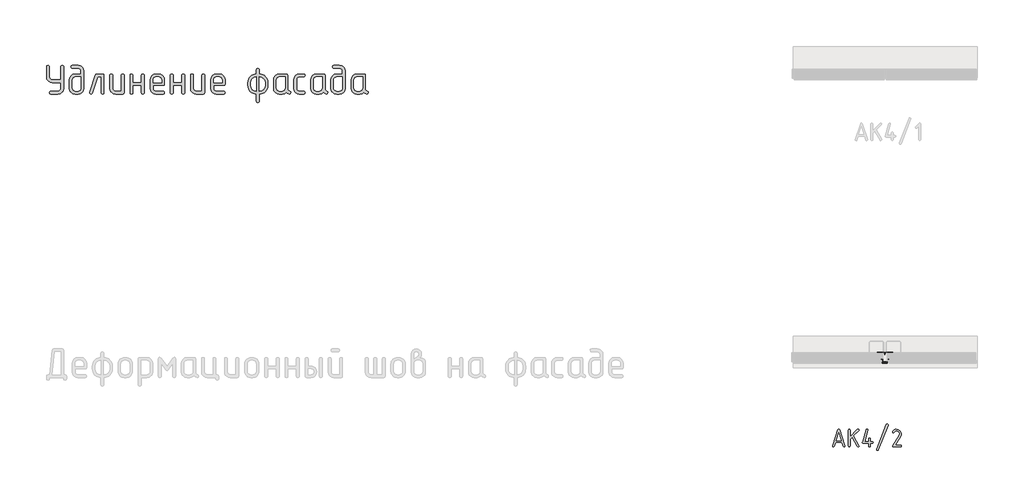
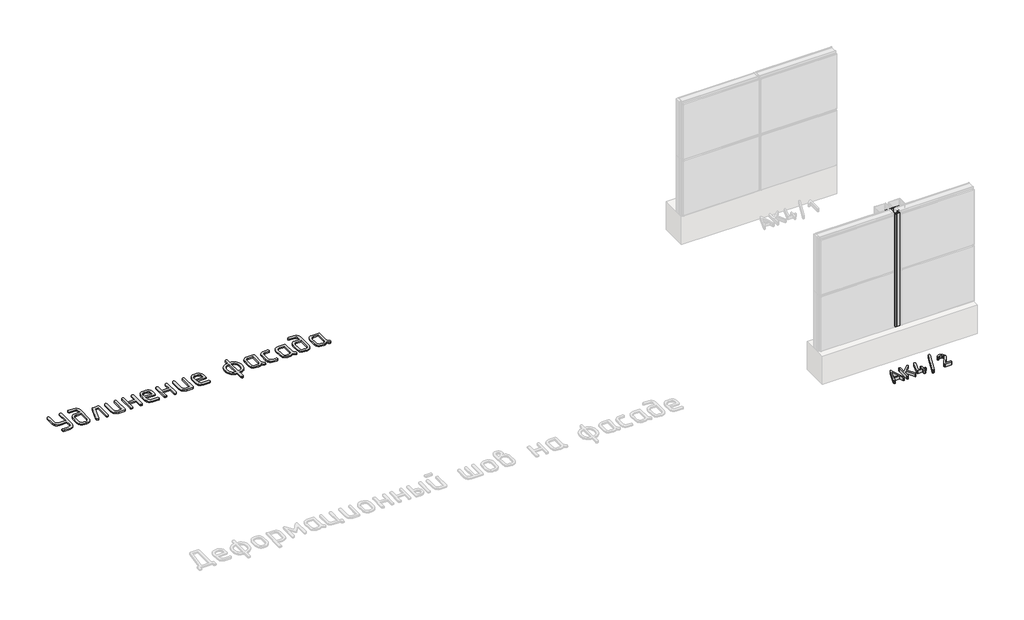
# One storey, part 12 of 37: 3 proxies.
"""IFC4 building model written with IfcOpenShell, lengths in millimetres."""

from ifc_helpers import new_model, si_unit, origin, origin_with_axes, place, context, project, spatial, polyline, outline, extrude, transform, mapped, element, save
from components import generic_models_5184f7a0

model = new_model("IFC4")

# Units and contexts
model_context = context("Model", 3, world=origin())
ifc_project = project(units=[si_unit("LENGTHUNIT", "METRE", prefix="MILLI")], contexts=[model_context])

# Site, building, storey
site = spatial("IfcSite", under=ifc_project)
building = spatial("IfcBuilding", under=site)
storey = spatial("IfcBuildingStorey", under=building, Name="Этаж 01", Elevation=0.0)

# Proxies
placement = place(None, origin())
element("IfcBuildingElementProxy", 1, Name="250 мм ГОСТ 2.304", ObjectType="250 мм ГОСТ 2.304", at=placement, inside=storey, context=model_context, shape_type="SweptSolid", body=[
    extrude(outline(polyline([(46420.8154984, -26426.1300608), (46402.9821438, -26480.0681368), (46398.7740979, -26486.3567408), (46391.2809603, -26488.4529422), (46382.5207159, -26485.1678505), (46378.5160328, -26476.8143318), (46379.6423499, -26472.0587706), (46454.3547197, -26247.9216611), (46459.2667139, -26239.9905113), (46465.9933301, -26237.3467947), (46473.0953853, -26239.9905113), (46477.6319404, -26247.9216611), (46552.7197493, -26472.0587706), (46553.4706274, -26476.8143318), (46549.4659443, -26485.1678505), (46540.7056999, -26488.4529422), (46535.2618338, -26487.7646372), (46529.0670895, -26480.0681368), (46511.1711617, -26426.1300608), (46420.8154984, -26426.1300608)]), holes=[polyline([(46502.7863564, -26400.9756448), (46465.9933301, -26290.9720048), (46429.2003037, -26400.9756448), (46502.7863564, -26400.9756448)])]), origin_with_axes(), (0.0, 0.0, 1.0), 50.0),
    extrude(outline(polyline([(46626.4935215, -26347.4130078), (46731.0532954, -26243.5415389), (46739.8135397, -26239.5368558), (46748.7615036, -26243.385106), (46752.5784672, -26252.3017833), (46748.5737841, -26261.0620276), (46674.6122924, -26335.0235194), (46750.7638452, -26470.2441485), (46752.5784672, -26476.8143318), (46748.5737841, -26485.7310091), (46739.4381007, -26489.2038202), (46733.3528595, -26487.4674147), (46728.8632343, -26482.2581979), (46656.0280597, -26352.1685691), (46626.4935215, -26381.3276682), (46626.4935215, -26476.4388927), (46623.0207104, -26485.7310091), (46614.1040331, -26488.8283812), (46605.1560692, -26485.5432896), (46601.3391055, -26476.4388927), (46601.3391055, -26252.3017833), (46605.1560692, -26243.1973865), (46614.1040331, -26239.9122948), (46622.6765579, -26243.1973865), (46626.4935215, -26252.3017833), (46626.4935215, -26347.4130078)])), origin_with_axes(), (0.0, 0.0, 1.0), 50.0),
    extrude(outline(polyline([(46913.8295368, -26414.1160114), (46938.6085137, -26414.1160114), (46947.90063, -26417.5888225), (46950.9980022, -26426.5054998), (46947.90063, -26435.2657442), (46938.6085137, -26438.8949883), (46913.8295368, -26438.8949883), (46913.8295368, -26476.4388927), (46910.3567256, -26485.7310091), (46901.4400483, -26488.8283812), (46892.6798039, -26485.5432896), (46889.0505598, -26476.4388927), (46889.0505598, -26438.8949883), (46814.33819, -26438.8949883), (46804.4829151, -26436.3451315), (46801.1978235, -26428.6955609), (46801.5732625, -26425.7859083), (46802.3241406, -26423.2516948), (46851.8820945, -26248.6725392), (46856.6063691, -26241.9146364), (46863.5207048, -26239.5368558), (46872.4686687, -26243.0096669), (46876.2856323, -26251.9263442), (46875.9101933, -26255.6181615), (46830.7323616, -26414.1160114), (46889.0505598, -26414.1160114), (46889.0505598, -26376.5721069), (46892.4920844, -26367.6554296), (46901.4400483, -26364.1826185), (46910.0125731, -26367.4677101), (46913.8295368, -26376.5721069), (46913.8295368, -26414.1160114)])), origin_with_axes(), (0.0, 0.0, 1.0), 50.0),
    extrude(outline(polyline([(47163.2462085, -26181.9695356), (47026.2109574, -26530.7524078), (47021.4866827, -26536.571713), (47014.947786, -26538.7617741), (47005.8121026, -26535.2889629), (47001.8074195, -26526.3722856), (47002.5582976, -26521.6167244), (47139.5935487, -26172.8964254), (47144.3178234, -26167.014547), (47150.8567201, -26164.824486), (47159.9924035, -26168.4850166), (47163.9970866, -26177.2139744), (47163.2462085, -26181.9695356)])), origin_with_axes(), (0.0, 0.0, 1.0), 50.0),
    extrude(outline(polyline([(47341.5797546, -26335.7743975), (47261.0480796, -26464.0494043), (47338.3259495, -26464.0494043), (47347.6180659, -26467.5222154), (47350.715438, -26476.4388927), (47347.4303464, -26485.0114176), (47338.3259495, -26488.8283812), (47238.8346028, -26488.8283812), (47228.6977486, -26486.3723841), (47225.3187972, -26479.0043929), (47228.2597364, -26469.4932704), (47320.1171559, -26323.00947), (47324.8101439, -26304.4252373), (47321.7127718, -26289.0322364), (47312.4206555, -26276.3924553), (47298.3886212, -26267.6165676), (47281.8223734, -26264.6912717), (47263.2381407, -26269.7909854), (47249.0340302, -26283.6509435), (47244.8572708, -26288.0154224), (47238.8346028, -26289.4702487), (47230.0743584, -26286.0287241), (47226.0696753, -26277.4561992), (47228.2597364, -26270.5105769), (47238.2870875, -26257.9959421), (47250.8486522, -26248.1093806), (47265.0527627, -26241.679987), (47280.0077513, -26239.5368558), (47306.69521, -26244.4644932), (47329.1902661, -26259.2474056), (47344.4894072, -26280.3971384), (47349.5891209, -26305.1761154), (47347.5867793, -26320.8350522), (47341.5797546, -26335.7743975)])), origin_with_axes(), (0.0, 0.0, 1.0), 50.0),
])
element("IfcBuildingElementProxy", 2, Name="400 мм ГОСТ 2.304", ObjectType="400 мм ГОСТ 2.304", at=placement, inside=storey, context=model_context, shape_type="SweptSolid", body=[
    extrude(outline(polyline([(35489.9186202, -21349.3536345), (35369.1834306, -21349.3536345), (35338.1148485, -21343.4634965), (35312.0516197, -21325.7930824), (35294.3812057, -21299.7298537), (35288.4910677, -21268.6612716), (35288.4910677, -21127.9046686), (35289.9699221, -21119.448655), (35294.4064852, -21112.8886086), (35309.1191905, -21107.2765458), (35322.9723907, -21112.5852538), (35327.5985506, -21119.0694616), (35329.1406039, -21127.9046686), (35329.1406039, -21268.6612716), (35332.0098342, -21284.34724), (35340.6175252, -21297.227177), (35353.4974622, -21305.834868), (35369.1834306, -21308.7040983), (35489.9186202, -21308.7040983), (35489.9186202, -21127.9046686), (35491.3848348, -21119.448655), (35495.7834787, -21112.8886086), (35509.9400336, -21107.2765458), (35524.0460293, -21112.5852538), (35528.4825925, -21119.0694616), (35529.9614469, -21127.9046686), (35529.9614469, -21429.4392879), (35524.0713089, -21460.9629021), (35516.7086364, -21474.7339437), (35506.4008948, -21487.1778083), (35480.7926982, -21504.3931902), (35449.8757935, -21510.1316508), (35349.1620172, -21510.1316508), (35340.7818423, -21508.6654362), (35334.449312, -21504.2667924), (35329.1406039, -21490.1102375), (35334.1459572, -21475.9536826), (35340.4026489, -21471.5550387), (35349.1620172, -21470.0888241), (35449.8757935, -21470.0888241), (35465.1825685, -21467.1437551), (35478.1383442, -21458.3085481), (35486.9735512, -21445.201095), (35489.9186202, -21429.4392879), (35489.9186202, -21349.3536345)])), origin_with_axes(), (0.0, 0.0, 1.0), 20.0),
    extrude(outline(polyline([(35773.4541911, -21228.6184449), (35773.4541911, -21187.9689087), (35770.5091221, -21172.2829403), (35761.6739151, -21159.4030033), (35748.566462, -21150.7953123), (35732.8046549, -21147.926082), (35652.7190015, -21147.926082), (35644.3388266, -21146.4598674), (35638.0062963, -21142.0612235), (35632.6975882, -21127.9046686), (35637.7029415, -21113.4953181), (35643.9596332, -21108.8312388), (35652.7190015, -21107.2765458), (35732.8046549, -21107.2765458), (35764.1765918, -21113.1666838), (35777.7580366, -21120.5293563), (35789.9364658, -21130.8370978), (35807.6068798, -21156.9003266), (35813.4970179, -21187.9689087), (35813.4970179, -21429.4392879), (35807.6068798, -21460.9629021), (35800.2442073, -21474.7339437), (35789.9364658, -21487.1778083), (35764.1765918, -21504.3931902), (35732.8046549, -21510.1316508), (35692.7618282, -21510.1316508), (35661.6932461, -21504.3931902), (35635.6300174, -21487.1778083), (35625.3222759, -21474.7339437), (35617.9596033, -21460.9629021), (35612.0694653, -21429.4392879), (35612.0694653, -21308.7040983), (35617.9596033, -21278.0905483), (35635.6300174, -21252.178997), (35661.6932461, -21234.5085829), (35692.7618282, -21228.6184449), (35773.4541911, -21228.6184449)]), holes=[polyline([(35773.4541911, -21268.6612716), (35692.7618282, -21268.6612716), (35677.0758598, -21271.6063406), (35664.1959228, -21280.4415476), (35655.5882318, -21293.3973233), (35652.7190015, -21308.7040983), (35652.7190015, -21429.4392879), (35655.5882318, -21445.201095), (35664.1959228, -21458.3085481), (35677.0758598, -21467.1437551), (35692.7618282, -21470.0888241), (35732.8046549, -21470.0888241), (35748.566462, -21467.1437551), (35761.6739151, -21458.3085481), (35770.5091221, -21445.201095), (35773.4541911, -21429.4392879), (35773.4541911, -21268.6612716)])]), origin_with_axes(), (0.0, 0.0, 1.0), 20.0),
    extrude(outline(polyline([(36098.2460078, -21490.1102375), (36096.8429921, -21498.8696058), (36092.633945, -21505.1262975), (36078.2245944, -21510.1316508), (36064.0680395, -21504.8229428), (36059.6693957, -21498.4904124), (36058.2031811, -21490.1102375), (36058.2031811, -21268.6612716), (36011.6887864, -21268.6612716), (35936.2545725, -21496.5818054), (35928.9234994, -21506.5925121), (35918.0532876, -21510.1316508), (35903.593378, -21504.8229428), (35898.9672181, -21498.6420898), (35897.4251648, -21490.716947), (35898.6385837, -21483.6386695), (35978.1175277, -21242.1682903), (35985.2969234, -21232.0059062), (35997.5322315, -21228.6184449), (36078.2245944, -21228.6184449), (36093.2406545, -21233.6237982), (36098.2460078, -21248.6398582), (36098.2460078, -21490.1102375)])), origin_with_axes(), (0.0, 0.0, 1.0), 20.0),
    extrude(outline(polyline([(36382.9949977, -21490.1102375), (36377.9896444, -21505.1262975), (36362.9735844, -21510.1316508), (36262.2598081, -21510.1316508), (36231.191226, -21504.3931902), (36205.1279973, -21487.1778083), (36194.8202557, -21474.7339437), (36187.4575832, -21460.9629021), (36181.5674452, -21429.4392879), (36181.5674452, -21248.6398582), (36183.0462996, -21240.2596833), (36187.4828628, -21233.927153), (36202.195568, -21228.6184449), (36216.0487682, -21233.6237982), (36220.6749281, -21239.8804899), (36222.2169814, -21248.6398582), (36222.2169814, -21429.4392879), (36225.0862117, -21445.201095), (36233.6939027, -21458.3085481), (36246.5738397, -21467.1437551), (36262.2598081, -21470.0888241), (36342.952171, -21470.0888241), (36342.952171, -21248.6398582), (36344.4183856, -21240.2596833), (36348.8170295, -21233.927153), (36362.9735844, -21228.6184449), (36377.0795802, -21233.6237982), (36381.5161433, -21239.8804899), (36382.9949977, -21248.6398582), (36382.9949977, -21490.1102375)])), origin_with_axes(), (0.0, 0.0, 1.0), 20.0),
    extrude(outline(polyline([(36627.701161, -21349.3536345), (36627.701161, -21248.6398582), (36629.1673756, -21240.2596833), (36633.5660194, -21233.927153), (36647.7225743, -21228.6184449), (36661.8285701, -21233.6237982), (36666.2651333, -21239.8804899), (36667.7439877, -21248.6398582), (36667.7439877, -21490.1102375), (36666.340972, -21498.8696058), (36662.1319248, -21505.1262975), (36647.7225743, -21510.1316508), (36633.5660194, -21504.8229428), (36629.1673756, -21498.4904124), (36627.701161, -21490.1102375), (36627.701161, -21389.3964612), (36506.9659713, -21389.3964612), (36506.9659713, -21490.1102375), (36505.5629556, -21498.8696058), (36501.3539085, -21505.1262975), (36486.944558, -21510.1316508), (36472.4846483, -21504.8229428), (36467.8584884, -21498.4904124), (36466.3164351, -21490.1102375), (36466.3164351, -21248.6398582), (36467.7952895, -21240.2596833), (36472.2318527, -21233.927153), (36486.944558, -21228.6184449), (36500.7977581, -21233.6237982), (36505.423918, -21239.8804899), (36506.9659713, -21248.6398582), (36506.9659713, -21349.3536345), (36627.701161, -21349.3536345)])), origin_with_axes(), (0.0, 0.0, 1.0), 20.0),
    extrude(outline(polyline([(36791.7149613, -21389.3964612), (36791.7149613, -21429.4392879), (36794.5841916, -21445.201095), (36803.1918826, -21458.3085481), (36816.0718196, -21467.1437551), (36831.757788, -21470.0888241), (36932.4715643, -21470.0888241), (36941.2309326, -21471.4918398), (36947.4876243, -21475.700887), (36952.4929776, -21490.1102375), (36947.1842695, -21503.9634376), (36940.8517392, -21508.5895975), (36932.4715643, -21510.1316508), (36831.757788, -21510.1316508), (36800.6892059, -21504.3931902), (36774.6259771, -21487.1778083), (36764.3182356, -21474.7339437), (36756.9555631, -21460.9629021), (36751.0654251, -21429.4392879), (36751.0654251, -21308.7040983), (36756.9555631, -21277.7871936), (36764.3182356, -21264.3195068), (36774.6259771, -21252.178997), (36800.6892059, -21234.5085829), (36831.757788, -21228.6184449), (36871.8006147, -21228.6184449), (36903.1725515, -21234.3569055), (36928.9324255, -21251.5722875), (36946.6028396, -21277.6355162), (36952.4929776, -21308.7040983), (36952.4929776, -21369.3750479), (36947.4876243, -21384.3911079), (36932.4715643, -21389.3964612), (36791.7149613, -21389.3964612)]), holes=[polyline([(36791.7149613, -21349.3536345), (36912.4501509, -21349.3536345), (36912.4501509, -21308.7040983), (36909.5050819, -21293.3973233), (36900.6698749, -21280.4415476), (36887.5624218, -21271.6063406), (36871.8006147, -21268.6612716), (36831.757788, -21268.6612716), (36816.0718196, -21271.6063406), (36803.1918826, -21280.4415476), (36794.5841916, -21293.3973233), (36791.7149613, -21308.7040983), (36791.7149613, -21349.3536345)])]), origin_with_axes(), (0.0, 0.0, 1.0), 20.0),
    extrude(outline(polyline([(37197.1991408, -21349.3536345), (37197.1991408, -21248.6398582), (37198.6653555, -21240.2596833), (37203.0639993, -21233.927153), (37217.2205542, -21228.6184449), (37231.32655, -21233.6237982), (37235.7631132, -21239.8804899), (37237.2419675, -21248.6398582), (37237.2419675, -21490.1102375), (37235.8389518, -21498.8696058), (37231.6299047, -21505.1262975), (37217.2205542, -21510.1316508), (37203.0639993, -21504.8229428), (37198.6653555, -21498.4904124), (37197.1991408, -21490.1102375), (37197.1991408, -21389.3964612), (37076.4639512, -21389.3964612), (37076.4639512, -21490.1102375), (37075.0609355, -21498.8696058), (37070.8518884, -21505.1262975), (37056.4425379, -21510.1316508), (37041.9826282, -21504.8229428), (37037.3564683, -21498.4904124), (37035.814415, -21490.1102375), (37035.814415, -21248.6398582), (37037.2932694, -21240.2596833), (37041.7298326, -21233.927153), (37056.4425379, -21228.6184449), (37070.295738, -21233.6237982), (37074.9218979, -21239.8804899), (37076.4639512, -21248.6398582), (37076.4639512, -21349.3536345), (37197.1991408, -21349.3536345)])), origin_with_axes(), (0.0, 0.0, 1.0), 20.0),
    extrude(outline(polyline([(37521.9909575, -21490.1102375), (37516.9856041, -21505.1262975), (37501.9695441, -21510.1316508), (37401.2557679, -21510.1316508), (37370.1871858, -21504.3931902), (37344.123957, -21487.1778083), (37333.8162155, -21474.7339437), (37326.453543, -21460.9629021), (37320.5634049, -21429.4392879), (37320.5634049, -21248.6398582), (37322.0422593, -21240.2596833), (37326.4788225, -21233.927153), (37341.1915278, -21228.6184449), (37355.0447279, -21233.6237982), (37359.6708878, -21239.8804899), (37361.2129411, -21248.6398582), (37361.2129411, -21429.4392879), (37364.0821715, -21445.201095), (37372.6898624, -21458.3085481), (37385.5697994, -21467.1437551), (37401.2557679, -21470.0888241), (37481.9481308, -21470.0888241), (37481.9481308, -21248.6398582), (37483.4143454, -21240.2596833), (37487.8129892, -21233.927153), (37501.9695441, -21228.6184449), (37516.0755399, -21233.6237982), (37520.5121031, -21239.8804899), (37521.9909575, -21248.6398582), (37521.9909575, -21490.1102375)])), origin_with_axes(), (0.0, 0.0, 1.0), 20.0),
    extrude(outline(polyline([(37645.9619311, -21389.3964612), (37645.9619311, -21429.4392879), (37648.8311614, -21445.201095), (37657.4388524, -21458.3085481), (37670.3187894, -21467.1437551), (37686.0047578, -21470.0888241), (37786.7185341, -21470.0888241), (37795.4779024, -21471.4918398), (37801.7345941, -21475.700887), (37806.7399474, -21490.1102375), (37801.4312393, -21503.9634376), (37795.098709, -21508.5895975), (37786.7185341, -21510.1316508), (37686.0047578, -21510.1316508), (37654.9361757, -21504.3931902), (37628.872947, -21487.1778083), (37618.5652054, -21474.7339437), (37611.2025329, -21460.9629021), (37605.3123949, -21429.4392879), (37605.3123949, -21308.7040983), (37611.2025329, -21277.7871936), (37618.5652054, -21264.3195068), (37628.872947, -21252.178997), (37654.9361757, -21234.5085829), (37686.0047578, -21228.6184449), (37726.0475845, -21228.6184449), (37757.4195213, -21234.3569055), (37783.1793953, -21251.5722875), (37800.8498094, -21277.6355162), (37806.7399474, -21308.7040983), (37806.7399474, -21369.3750479), (37801.7345941, -21384.3911079), (37786.7185341, -21389.3964612), (37645.9619311, -21389.3964612)]), holes=[polyline([(37645.9619311, -21349.3536345), (37766.6971207, -21349.3536345), (37766.6971207, -21308.7040983), (37763.7520517, -21293.3973233), (37754.9168447, -21280.4415476), (37741.8093916, -21271.6063406), (37726.0475845, -21268.6612716), (37686.0047578, -21268.6612716), (37670.3187894, -21271.6063406), (37657.4388524, -21280.4415476), (37648.8311614, -21293.3973233), (37645.9619311, -21308.7040983), (37645.9619311, -21349.3536345)])]), origin_with_axes(), (0.0, 0.0, 1.0), 20.0),
    extrude(outline(polyline([(38290.8941249, -21228.6184449), (38315.2257036, -21230.7924872), (38337.560197, -21237.3146143), (38357.8976048, -21248.1848261), (38376.2379273, -21263.4031226), (38391.7216592, -21281.7813644), (38402.7814677, -21302.2325304), (38409.4173528, -21324.7566204), (38411.6293145, -21349.3536345), (38411.6293145, -21389.3964612), (38409.4205128, -21413.5036838), (38402.7941075, -21435.7718183), (38391.7500987, -21456.2008646), (38376.2884864, -21474.7908227), (38357.6985283, -21490.252435), (38337.269482, -21501.2964438), (38315.0013475, -21507.9228491), (38290.8941249, -21510.1316508), (38290.8941249, -21610.8454271), (38289.4911092, -21619.6047955), (38285.2820621, -21625.8614871), (38270.8727116, -21630.8668405), (38256.4128019, -21625.5581324), (38251.786642, -21619.225602), (38250.2445887, -21610.8454271), (38250.2445887, -21510.1316508), (38226.1373661, -21507.9228491), (38203.8692316, -21501.2964438), (38183.4401853, -21490.252435), (38164.8502272, -21474.7908227), (38149.3886149, -21456.2008646), (38138.3446061, -21435.7718183), (38131.7182008, -21413.5036838), (38129.5093991, -21389.3964612), (38129.5093991, -21349.3536345), (38131.7150409, -21325.0220558), (38138.3319663, -21302.6875625), (38149.3601754, -21282.3501546), (38164.7996681, -21264.0098321), (38183.4117458, -21248.5261002), (38203.8565919, -21237.4662917), (38226.1342061, -21230.8304066), (38250.2445887, -21228.6184449), (38250.2445887, -21167.9474953), (38251.7108033, -21159.5673204), (38256.1094472, -21153.2347901), (38270.8727116, -21147.926082), (38284.7259117, -21153.2347901), (38289.3520716, -21159.5673204), (38290.8941249, -21167.9474953), (38290.8941249, -21228.6184449)]), holes=[polyline([(38290.8941249, -21268.6612716), (38290.8941249, -21470.0888241), (38321.8110296, -21464.1986861), (38335.2787165, -21456.8360136), (38347.4192263, -21446.5282721), (38365.0896403, -21420.4650433), (38370.9797783, -21389.3964612), (38370.9797783, -21349.3536345), (38365.0896403, -21318.2850524), (38347.4192263, -21292.2218237), (38321.5076749, -21274.5514096), (38290.8941249, -21268.6612716)]), polyline([(38250.2445887, -21470.0888241), (38250.2445887, -21268.6612716), (38219.6310387, -21274.5514096), (38193.7194874, -21292.2218237), (38176.0490733, -21318.2850524), (38170.1589353, -21349.3536345), (38170.1589353, -21389.3964612), (38176.0490733, -21420.4650433), (38193.7194874, -21446.5282721), (38219.6310387, -21464.1986861), (38250.2445887, -21470.0888241)])]), origin_with_axes(), (0.0, 0.0, 1.0), 20.0),
    extrude(outline(polyline([(38672.7166341, -21483.6386695), (38660.7846807, -21494.2813653), (38646.2236528, -21502.7500186), (38629.8930556, -21508.2862428), (38612.6523941, -21510.1316508), (38572.6095674, -21510.1316508), (38541.5409853, -21504.3931902), (38515.4777565, -21487.1778083), (38505.170015, -21474.7339437), (38497.8073425, -21460.9629021), (38491.9172045, -21429.4392879), (38491.9172045, -21308.7040983), (38497.8073425, -21278.0905483), (38515.4777565, -21252.178997), (38541.5409853, -21234.5085829), (38572.6095674, -21228.6184449), (38673.3233436, -21228.6184449), (38688.3394037, -21233.6237982), (38693.344757, -21248.6398582), (38693.344757, -21429.4392879), (38695.253364, -21442.4709023), (38700.9791848, -21454.4660546), (38709.8143918, -21464.5399602), (38721.0511573, -21471.8078344), (38730.7585092, -21478.9113914), (38733.9942932, -21489.503528), (38728.3822304, -21504.2667924), (38721.9738613, -21509.1204684), (38713.9728798, -21510.7383603), (38705.6811834, -21508.4126406), (38687.1259847, -21497.7699449), (38672.7166341, -21483.6386695)]), holes=[polyline([(38653.3019303, -21429.4392879), (38653.3019303, -21268.6612716), (38572.6095674, -21268.6612716), (38556.923599, -21271.6063406), (38544.043662, -21280.4415476), (38535.435971, -21293.3973233), (38532.5667407, -21308.7040983), (38532.5667407, -21429.4392879), (38535.435971, -21445.201095), (38544.043662, -21458.3085481), (38556.923599, -21467.1437551), (38572.6095674, -21470.0888241), (38612.6523941, -21470.0888241), (38628.4142012, -21467.1437551), (38641.5216542, -21458.3085481), (38650.3568613, -21445.201095), (38653.3019303, -21429.4392879)])]), origin_with_axes(), (0.0, 0.0, 1.0), 20.0),
    extrude(outline(polyline([(38918.0295069, -21510.1316508), (38857.3585573, -21510.1316508), (38826.2899752, -21504.3931902), (38800.2267465, -21487.1778083), (38789.9190049, -21474.7339437), (38782.5563324, -21460.9629021), (38776.6661944, -21429.4392879), (38776.6661944, -21308.7040983), (38782.5563324, -21278.0905483), (38800.2267465, -21252.178997), (38826.2899752, -21234.5085829), (38857.3585573, -21228.6184449), (38918.0295069, -21228.6184449), (38926.7888752, -21230.0214606), (38933.0455669, -21234.2305077), (38938.0509202, -21248.6398582), (38932.7422121, -21262.4930584), (38926.4096818, -21267.1192183), (38918.0295069, -21268.6612716), (38857.3585573, -21268.6612716), (38841.6725889, -21271.6063406), (38828.7926519, -21280.4415476), (38820.1849609, -21293.3973233), (38817.3157306, -21308.7040983), (38817.3157306, -21429.4392879), (38820.1849609, -21445.201095), (38828.7926519, -21458.3085481), (38841.6725889, -21467.1437551), (38857.3585573, -21470.0888241), (38918.0295069, -21470.0888241), (38926.7888752, -21471.4918398), (38933.0455669, -21475.700887), (38938.0509202, -21490.1102375), (38932.7422121, -21503.9634376), (38926.4096818, -21508.5895975), (38918.0295069, -21510.1316508)])), origin_with_axes(), (0.0, 0.0, 1.0), 20.0),
    extrude(outline(polyline([(39196.9136384, -21483.6386695), (39184.9816849, -21494.2813653), (39170.420657, -21502.7500186), (39154.0900598, -21508.2862428), (39136.8493983, -21510.1316508), (39096.8065716, -21510.1316508), (39065.7379895, -21504.3931902), (39039.6747607, -21487.1778083), (39029.3670192, -21474.7339437), (39022.0043467, -21460.9629021), (39016.1142087, -21429.4392879), (39016.1142087, -21308.7040983), (39022.0043467, -21278.0905483), (39039.6747607, -21252.178997), (39065.7379895, -21234.5085829), (39096.8065716, -21228.6184449), (39197.5203478, -21228.6184449), (39212.5364079, -21233.6237982), (39217.5417612, -21248.6398582), (39217.5417612, -21429.4392879), (39219.4503682, -21442.4709023), (39225.176189, -21454.4660546), (39234.0113961, -21464.5399602), (39245.2481615, -21471.8078344), (39254.9555134, -21478.9113914), (39258.1912974, -21489.503528), (39252.5792346, -21504.2667924), (39246.1708655, -21509.1204684), (39238.1698841, -21510.7383603), (39229.8781876, -21508.4126406), (39211.3229889, -21497.7699449), (39196.9136384, -21483.6386695)]), holes=[polyline([(39177.4989345, -21429.4392879), (39177.4989345, -21268.6612716), (39096.8065716, -21268.6612716), (39081.1206032, -21271.6063406), (39068.2406662, -21280.4415476), (39059.6329752, -21293.3973233), (39056.7637449, -21308.7040983), (39056.7637449, -21429.4392879), (39059.6329752, -21445.201095), (39068.2406662, -21458.3085481), (39081.1206032, -21467.1437551), (39096.8065716, -21470.0888241), (39136.8493983, -21470.0888241), (39152.6112054, -21467.1437551), (39165.7186585, -21458.3085481), (39174.5538655, -21445.201095), (39177.4989345, -21429.4392879)])]), origin_with_axes(), (0.0, 0.0, 1.0), 20.0),
    extrude(outline(polyline([(39462.2479244, -21228.6184449), (39462.2479244, -21187.9689087), (39459.3028554, -21172.2829403), (39450.4676484, -21159.4030033), (39437.3601953, -21150.7953123), (39421.5983882, -21147.926082), (39341.5127348, -21147.926082), (39333.1325599, -21146.4598674), (39326.8000295, -21142.0612235), (39321.4913214, -21127.9046686), (39326.4966748, -21113.4953181), (39332.7533665, -21108.8312388), (39341.5127348, -21107.2765458), (39421.5983882, -21107.2765458), (39452.9703251, -21113.1666838), (39466.5517699, -21120.5293563), (39478.7301991, -21130.8370978), (39496.4006131, -21156.9003266), (39502.2907511, -21187.9689087), (39502.2907511, -21429.4392879), (39496.4006131, -21460.9629021), (39489.0379406, -21474.7339437), (39478.7301991, -21487.1778083), (39452.9703251, -21504.3931902), (39421.5983882, -21510.1316508), (39381.5555615, -21510.1316508), (39350.4869794, -21504.3931902), (39324.4237507, -21487.1778083), (39314.1160091, -21474.7339437), (39306.7533366, -21460.9629021), (39300.8631986, -21429.4392879), (39300.8631986, -21308.7040983), (39306.7533366, -21278.0905483), (39324.4237507, -21252.178997), (39350.4869794, -21234.5085829), (39381.5555615, -21228.6184449), (39462.2479244, -21228.6184449)]), holes=[polyline([(39462.2479244, -21268.6612716), (39381.5555615, -21268.6612716), (39365.8695931, -21271.6063406), (39352.9896561, -21280.4415476), (39344.3819651, -21293.3973233), (39341.5127348, -21308.7040983), (39341.5127348, -21429.4392879), (39344.3819651, -21445.201095), (39352.9896561, -21458.3085481), (39365.8695931, -21467.1437551), (39381.5555615, -21470.0888241), (39421.5983882, -21470.0888241), (39437.3601953, -21467.1437551), (39450.4676484, -21458.3085481), (39459.3028554, -21445.201095), (39462.2479244, -21429.4392879), (39462.2479244, -21268.6612716)])]), origin_with_axes(), (0.0, 0.0, 1.0), 20.0),
    extrude(outline(polyline([(39766.4116182, -21483.6386695), (39754.4796648, -21494.2813653), (39739.9186369, -21502.7500186), (39723.5880397, -21508.2862428), (39706.3473782, -21510.1316508), (39666.3045515, -21510.1316508), (39635.2359694, -21504.3931902), (39609.1727406, -21487.1778083), (39598.8649991, -21474.7339437), (39591.5023266, -21460.9629021), (39585.6121885, -21429.4392879), (39585.6121885, -21308.7040983), (39591.5023266, -21278.0905483), (39609.1727406, -21252.178997), (39635.2359694, -21234.5085829), (39666.3045515, -21228.6184449), (39767.0183277, -21228.6184449), (39782.0343877, -21233.6237982), (39787.0397411, -21248.6398582), (39787.0397411, -21429.4392879), (39788.948348, -21442.4709023), (39794.6741689, -21454.4660546), (39803.5093759, -21464.5399602), (39814.7461414, -21471.8078344), (39824.4534933, -21478.9113914), (39827.6892773, -21489.503528), (39822.0772144, -21504.2667924), (39815.6688454, -21509.1204684), (39807.6678639, -21510.7383603), (39799.3761675, -21508.4126406), (39780.8209687, -21497.7699449), (39766.4116182, -21483.6386695)]), holes=[polyline([(39746.9969144, -21429.4392879), (39746.9969144, -21268.6612716), (39666.3045515, -21268.6612716), (39650.618583, -21271.6063406), (39637.738646, -21280.4415476), (39629.1309551, -21293.3973233), (39626.2617247, -21308.7040983), (39626.2617247, -21429.4392879), (39629.1309551, -21445.201095), (39637.738646, -21458.3085481), (39650.618583, -21467.1437551), (39666.3045515, -21470.0888241), (39706.3473782, -21470.0888241), (39722.1091853, -21467.1437551), (39735.2166383, -21458.3085481), (39744.0518454, -21445.201095), (39746.9969144, -21429.4392879)])]), origin_with_axes(), (0.0, 0.0, 1.0), 20.0),
])
generic_models_shape = generic_models_5184f7a0(model_context)
element("IfcBuildingElementProxy", 3, Name="АК4_2 Деформационный шов на фасаде : АК4_2 Деформационный шов на фасаде", ObjectType="АК4_2 Деформационный шов на фасаде : АК4_2 Деформационный шов на фасаде", at=placement, inside=storey, context=model_context, shape_type="MappedRepresentation", body=[
    mapped(generic_models_shape, transform((47166.3164092, -25285.1316508, 2047.4753058), x_axis=(0.0, 0.0, -1.0), y_axis=(1.0, 0.0, 0.0), z_axis=(0.0, -1.0, 0.0))),
])

save(model, "model.ifc")
